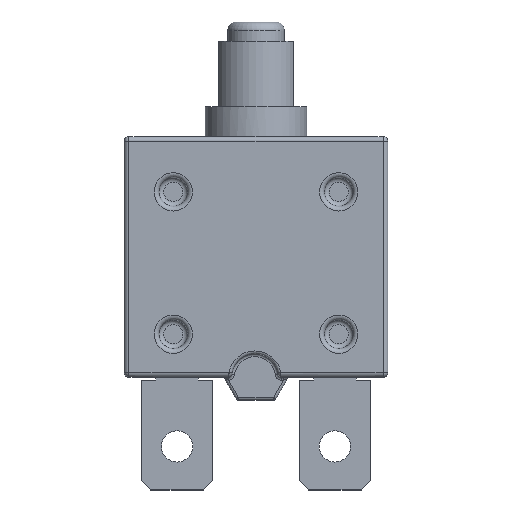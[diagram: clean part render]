
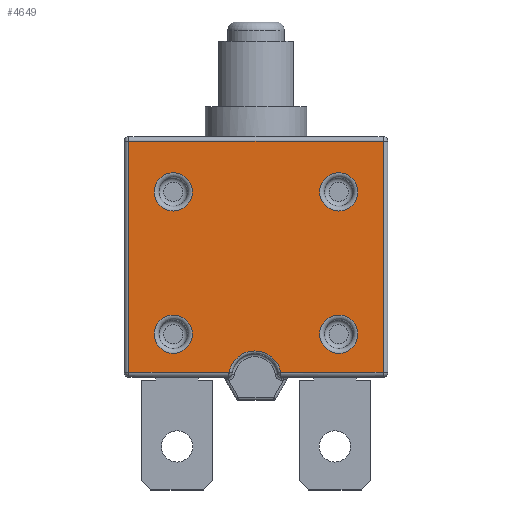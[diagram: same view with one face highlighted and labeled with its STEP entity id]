
A CAD part, top view. The second image highlights one B-rep face of the part: STEP entity #4649.
In plain terms, the highlighted planar face has unit normal (0, 0, 1).
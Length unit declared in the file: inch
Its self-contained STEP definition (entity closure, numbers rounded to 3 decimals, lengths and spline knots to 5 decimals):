
#183=CIRCLE('',#4999,0.1375);
#200=CIRCLE('',#5040,0.1);
#202=CIRCLE('',#5043,0.1);
#203=CIRCLE('',#5044,0.1);
#204=CIRCLE('',#5045,0.1);
#281=FACE_BOUND('',#860,.T.);
#282=FACE_BOUND('',#861,.T.);
#283=FACE_BOUND('',#862,.T.);
#284=FACE_BOUND('',#863,.T.);
#567=FACE_OUTER_BOUND('',#859,.T.);
#859=EDGE_LOOP('',(#3977,#3978,#3979,#3980,#3981,#3982));
#860=EDGE_LOOP('',(#3983));
#861=EDGE_LOOP('',(#3984));
#862=EDGE_LOOP('',(#3985));
#863=EDGE_LOOP('',(#3986));
#1381=LINE('',#8625,#1766);
#1383=LINE('',#8644,#1768);
#1384=LINE('',#8646,#1769);
#1385=LINE('',#8648,#1770);
#1386=LINE('',#8649,#1771);
#1766=VECTOR('',#5872,0.3937);
#1768=VECTOR('',#5898,0.3937);
#1769=VECTOR('',#5899,0.3937);
#1770=VECTOR('',#5900,0.3937);
#1771=VECTOR('',#5901,0.3937);
#2173=VERTEX_POINT('',#8441);
#2175=VERTEX_POINT('',#8455);
#2188=VERTEX_POINT('',#8624);
#2192=VERTEX_POINT('',#8639);
#2193=VERTEX_POINT('',#8643);
#2194=VERTEX_POINT('',#8645);
#2195=VERTEX_POINT('',#8647);
#2196=VERTEX_POINT('',#8650);
#2197=VERTEX_POINT('',#8652);
#2198=VERTEX_POINT('',#8654);
#2758=EDGE_CURVE('',#2175,#2173,#183,.T.);
#2794=EDGE_CURVE('',#2173,#2188,#1381,.T.);
#2801=EDGE_CURVE('',#2192,#2192,#200,.T.);
#2803=EDGE_CURVE('',#2193,#2175,#1383,.T.);
#2804=EDGE_CURVE('',#2194,#2193,#1384,.T.);
#2805=EDGE_CURVE('',#2195,#2194,#1385,.T.);
#2806=EDGE_CURVE('',#2188,#2195,#1386,.T.);
#2807=EDGE_CURVE('',#2196,#2196,#202,.T.);
#2808=EDGE_CURVE('',#2197,#2197,#203,.T.);
#2809=EDGE_CURVE('',#2198,#2198,#204,.T.);
#3977=ORIENTED_EDGE('',*,*,#2758,.F.);
#3978=ORIENTED_EDGE('',*,*,#2803,.F.);
#3979=ORIENTED_EDGE('',*,*,#2804,.F.);
#3980=ORIENTED_EDGE('',*,*,#2805,.F.);
#3981=ORIENTED_EDGE('',*,*,#2806,.F.);
#3982=ORIENTED_EDGE('',*,*,#2794,.F.);
#3983=ORIENTED_EDGE('',*,*,#2807,.F.);
#3984=ORIENTED_EDGE('',*,*,#2808,.F.);
#3985=ORIENTED_EDGE('',*,*,#2809,.F.);
#3986=ORIENTED_EDGE('',*,*,#2801,.F.);
#4396=PLANE('',#5042);
#4649=ADVANCED_FACE('',(#567,#281,#282,#283,#284),#4396,.T.);
#4999=AXIS2_PLACEMENT_3D('',#8457,#5790,#5791);
#5040=AXIS2_PLACEMENT_3D('',#8640,#5892,#5893);
#5042=AXIS2_PLACEMENT_3D('',#8642,#5896,#5897);
#5043=AXIS2_PLACEMENT_3D('',#8651,#5902,#5903);
#5044=AXIS2_PLACEMENT_3D('',#8653,#5904,#5905);
#5045=AXIS2_PLACEMENT_3D('',#8655,#5906,#5907);
#5790=DIRECTION('center_axis',(0.,0.,1.));
#5791=DIRECTION('ref_axis',(0.,1.,0.));
#5872=DIRECTION('',(-1.,0.,0.));
#5892=DIRECTION('center_axis',(0.,0.,1.));
#5893=DIRECTION('ref_axis',(-1.,0.,0.));
#5896=DIRECTION('center_axis',(0.,0.,1.));
#5897=DIRECTION('ref_axis',(1.,0.,0.));
#5898=DIRECTION('',(-1.,0.,0.));
#5899=DIRECTION('',(0.,-1.,0.));
#5900=DIRECTION('',(1.,0.,0.));
#5901=DIRECTION('',(0.,1.,0.));
#5902=DIRECTION('center_axis',(0.,0.,1.));
#5903=DIRECTION('ref_axis',(-1.,0.,0.));
#5904=DIRECTION('center_axis',(0.,0.,1.));
#5905=DIRECTION('ref_axis',(-1.,0.,0.));
#5906=DIRECTION('center_axis',(0.,0.,1.));
#5907=DIRECTION('ref_axis',(-1.,0.,0.));
#8441=CARTESIAN_POINT('',(0.54902,-0.60492,0.57));
#8455=CARTESIAN_POINT('',(0.81943,-0.60492,0.57));
#8457=CARTESIAN_POINT('Origin',(0.68423,-0.62992,0.57));
#8624=CARTESIAN_POINT('',(0.025,-0.60492,0.57));
#8625=CARTESIAN_POINT('',(0.345,-0.60492,0.57));
#8639=CARTESIAN_POINT('',(1.223,0.34008,0.57));
#8640=CARTESIAN_POINT('Origin',(1.123,0.34008,0.57));
#8642=CARTESIAN_POINT('Origin',(0.,0.,0.57));
#8643=CARTESIAN_POINT('',(1.355,-0.60492,0.57));
#8644=CARTESIAN_POINT('',(0.345,-0.60492,0.57));
#8645=CARTESIAN_POINT('',(1.355,0.60492,0.57));
#8646=CARTESIAN_POINT('',(1.355,0.,0.57));
#8647=CARTESIAN_POINT('',(0.025,0.60492,0.57));
#8648=CARTESIAN_POINT('',(0.345,0.60492,0.57));
#8649=CARTESIAN_POINT('',(0.025,0.,0.57));
#8650=CARTESIAN_POINT('',(0.357,0.34008,0.57));
#8651=CARTESIAN_POINT('Origin',(0.257,0.34008,0.57));
#8652=CARTESIAN_POINT('',(0.357,-0.40492,0.57));
#8653=CARTESIAN_POINT('Origin',(0.257,-0.40492,0.57));
#8654=CARTESIAN_POINT('',(1.223,-0.40492,0.57));
#8655=CARTESIAN_POINT('Origin',(1.123,-0.40492,0.57));
